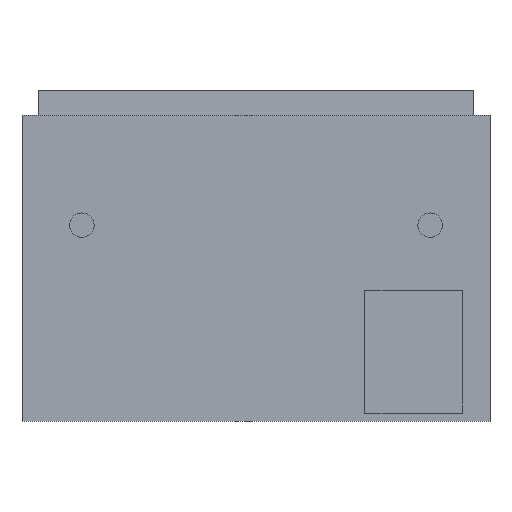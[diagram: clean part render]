
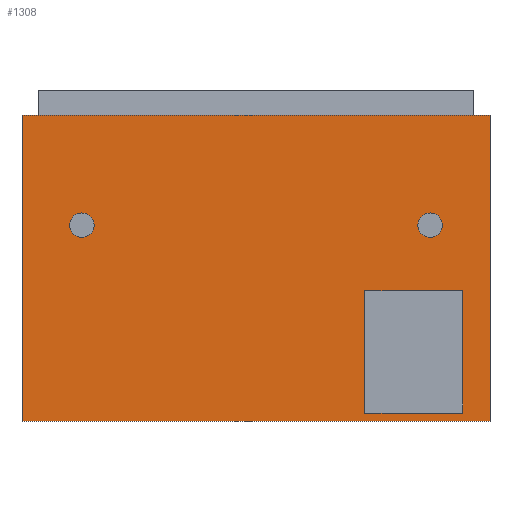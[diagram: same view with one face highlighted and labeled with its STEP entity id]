
A CAD part, top view. The second image highlights one B-rep face of the part: STEP entity #1308.
In plain terms, the highlighted planar face has unit normal (0, 0, 1).
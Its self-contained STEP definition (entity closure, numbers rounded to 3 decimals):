
#994 = VERTEX_POINT('',#995);
#995 = CARTESIAN_POINT('',(-3.44,-2.4,0.9));
#1002 = PLANE('',#1003);
#1003 = AXIS2_PLACEMENT_3D('',#1004,#1005,#1006);
#1004 = CARTESIAN_POINT('',(-3.44,-2.4,0.55));
#1005 = DIRECTION('',(0.,1.,0.));
#1006 = DIRECTION('',(1.,0.,0.));
#1014 = PLANE('',#1015);
#1015 = AXIS2_PLACEMENT_3D('',#1016,#1017,#1018);
#1016 = CARTESIAN_POINT('',(-3.44,2.1,0.55));
#1017 = DIRECTION('',(1.,0.,-0.));
#1018 = DIRECTION('',(0.,-1.,0.));
#1026 = EDGE_CURVE('',#994,#1027,#1029,.T.);
#1027 = VERTEX_POINT('',#1028);
#1028 = CARTESIAN_POINT('',(3.44,-2.4,0.9));
#1029 = SURFACE_CURVE('',#1030,(#1034,#1041),.PCURVE_S1.);
#1030 = LINE('',#1031,#1032);
#1031 = CARTESIAN_POINT('',(-3.44,-2.4,0.9));
#1032 = VECTOR('',#1033,1.);
#1033 = DIRECTION('',(1.,0.,0.));
#1034 = PCURVE('',#1002,#1035);
#1035 = DEFINITIONAL_REPRESENTATION('',(#1036),#1040);
#1036 = LINE('',#1037,#1038);
#1037 = CARTESIAN_POINT('',(0.,-0.35));
#1038 = VECTOR('',#1039,1.);
#1039 = DIRECTION('',(1.,0.));
#1040 = ( GEOMETRIC_REPRESENTATION_CONTEXT(2) 
PARAMETRIC_REPRESENTATION_CONTEXT() REPRESENTATION_CONTEXT('2D SPACE',''
  ) );
#1041 = PCURVE('',#1042,#1047);
#1042 = PLANE('',#1043);
#1043 = AXIS2_PLACEMENT_3D('',#1044,#1045,#1046);
#1044 = CARTESIAN_POINT('',(0.,-0.15,0.9));
#1045 = DIRECTION('',(0.,0.,1.));
#1046 = DIRECTION('',(1.,0.,-0.));
#1047 = DEFINITIONAL_REPRESENTATION('',(#1048),#1052);
#1048 = LINE('',#1049,#1050);
#1049 = CARTESIAN_POINT('',(-3.44,-2.25));
#1050 = VECTOR('',#1051,1.);
#1051 = DIRECTION('',(1.,0.));
#1052 = ( GEOMETRIC_REPRESENTATION_CONTEXT(2) 
PARAMETRIC_REPRESENTATION_CONTEXT() REPRESENTATION_CONTEXT('2D SPACE',''
  ) );
#1070 = PLANE('',#1071);
#1071 = AXIS2_PLACEMENT_3D('',#1072,#1073,#1074);
#1072 = CARTESIAN_POINT('',(3.44,-2.4,0.55));
#1073 = DIRECTION('',(-1.,0.,0.));
#1074 = DIRECTION('',(0.,1.,0.));
#1112 = EDGE_CURVE('',#1027,#1113,#1115,.T.);
#1113 = VERTEX_POINT('',#1114);
#1114 = CARTESIAN_POINT('',(3.44,2.1,0.9));
#1115 = SURFACE_CURVE('',#1116,(#1120,#1127),.PCURVE_S1.);
#1116 = LINE('',#1117,#1118);
#1117 = CARTESIAN_POINT('',(3.44,-2.4,0.9));
#1118 = VECTOR('',#1119,1.);
#1119 = DIRECTION('',(0.,1.,0.));
#1120 = PCURVE('',#1070,#1121);
#1121 = DEFINITIONAL_REPRESENTATION('',(#1122),#1126);
#1122 = LINE('',#1123,#1124);
#1123 = CARTESIAN_POINT('',(0.,-0.35));
#1124 = VECTOR('',#1125,1.);
#1125 = DIRECTION('',(1.,0.));
#1126 = ( GEOMETRIC_REPRESENTATION_CONTEXT(2) 
PARAMETRIC_REPRESENTATION_CONTEXT() REPRESENTATION_CONTEXT('2D SPACE',''
  ) );
#1127 = PCURVE('',#1042,#1128);
#1128 = DEFINITIONAL_REPRESENTATION('',(#1129),#1133);
#1129 = LINE('',#1130,#1131);
#1130 = CARTESIAN_POINT('',(3.44,-2.25));
#1131 = VECTOR('',#1132,1.);
#1132 = DIRECTION('',(0.,1.));
#1133 = ( GEOMETRIC_REPRESENTATION_CONTEXT(2) 
PARAMETRIC_REPRESENTATION_CONTEXT() REPRESENTATION_CONTEXT('2D SPACE',''
  ) );
#1151 = PLANE('',#1152);
#1152 = AXIS2_PLACEMENT_3D('',#1153,#1154,#1155);
#1153 = CARTESIAN_POINT('',(3.44,2.1,0.55));
#1154 = DIRECTION('',(0.,-1.,0.));
#1155 = DIRECTION('',(-1.,0.,0.));
#1188 = EDGE_CURVE('',#1113,#1189,#1191,.T.);
#1189 = VERTEX_POINT('',#1190);
#1190 = CARTESIAN_POINT('',(-3.44,2.1,0.9));
#1191 = SURFACE_CURVE('',#1192,(#1196,#1203),.PCURVE_S1.);
#1192 = LINE('',#1193,#1194);
#1193 = CARTESIAN_POINT('',(3.44,2.1,0.9));
#1194 = VECTOR('',#1195,1.);
#1195 = DIRECTION('',(-1.,0.,0.));
#1196 = PCURVE('',#1151,#1197);
#1197 = DEFINITIONAL_REPRESENTATION('',(#1198),#1202);
#1198 = LINE('',#1199,#1200);
#1199 = CARTESIAN_POINT('',(0.,-0.35));
#1200 = VECTOR('',#1201,1.);
#1201 = DIRECTION('',(1.,0.));
#1202 = ( GEOMETRIC_REPRESENTATION_CONTEXT(2) 
PARAMETRIC_REPRESENTATION_CONTEXT() REPRESENTATION_CONTEXT('2D SPACE',''
  ) );
#1203 = PCURVE('',#1042,#1204);
#1204 = DEFINITIONAL_REPRESENTATION('',(#1205),#1209);
#1205 = LINE('',#1206,#1207);
#1206 = CARTESIAN_POINT('',(3.44,2.25));
#1207 = VECTOR('',#1208,1.);
#1208 = DIRECTION('',(-1.,0.));
#1209 = ( GEOMETRIC_REPRESENTATION_CONTEXT(2) 
PARAMETRIC_REPRESENTATION_CONTEXT() REPRESENTATION_CONTEXT('2D SPACE',''
  ) );
#1259 = EDGE_CURVE('',#1189,#994,#1260,.T.);
#1260 = SURFACE_CURVE('',#1261,(#1265,#1272),.PCURVE_S1.);
#1261 = LINE('',#1262,#1263);
#1262 = CARTESIAN_POINT('',(-3.44,2.1,0.9));
#1263 = VECTOR('',#1264,1.);
#1264 = DIRECTION('',(0.,-1.,0.));
#1265 = PCURVE('',#1014,#1266);
#1266 = DEFINITIONAL_REPRESENTATION('',(#1267),#1271);
#1267 = LINE('',#1268,#1269);
#1268 = CARTESIAN_POINT('',(0.,-0.35));
#1269 = VECTOR('',#1270,1.);
#1270 = DIRECTION('',(1.,0.));
#1271 = ( GEOMETRIC_REPRESENTATION_CONTEXT(2) 
PARAMETRIC_REPRESENTATION_CONTEXT() REPRESENTATION_CONTEXT('2D SPACE',''
  ) );
#1272 = PCURVE('',#1042,#1273);
#1273 = DEFINITIONAL_REPRESENTATION('',(#1274),#1278);
#1274 = LINE('',#1275,#1276);
#1275 = CARTESIAN_POINT('',(-3.44,2.25));
#1276 = VECTOR('',#1277,1.);
#1277 = DIRECTION('',(0.,-1.));
#1278 = ( GEOMETRIC_REPRESENTATION_CONTEXT(2) 
PARAMETRIC_REPRESENTATION_CONTEXT() REPRESENTATION_CONTEXT('2D SPACE',''
  ) );
#1308 = ADVANCED_FACE('',(#1309),#1042,.T.);
#1309 = FACE_BOUND('',#1310,.T.);
#1310 = EDGE_LOOP('',(#1311,#1312,#1313,#1314));
#1311 = ORIENTED_EDGE('',*,*,#1026,.T.);
#1312 = ORIENTED_EDGE('',*,*,#1112,.T.);
#1313 = ORIENTED_EDGE('',*,*,#1188,.T.);
#1314 = ORIENTED_EDGE('',*,*,#1259,.T.);
